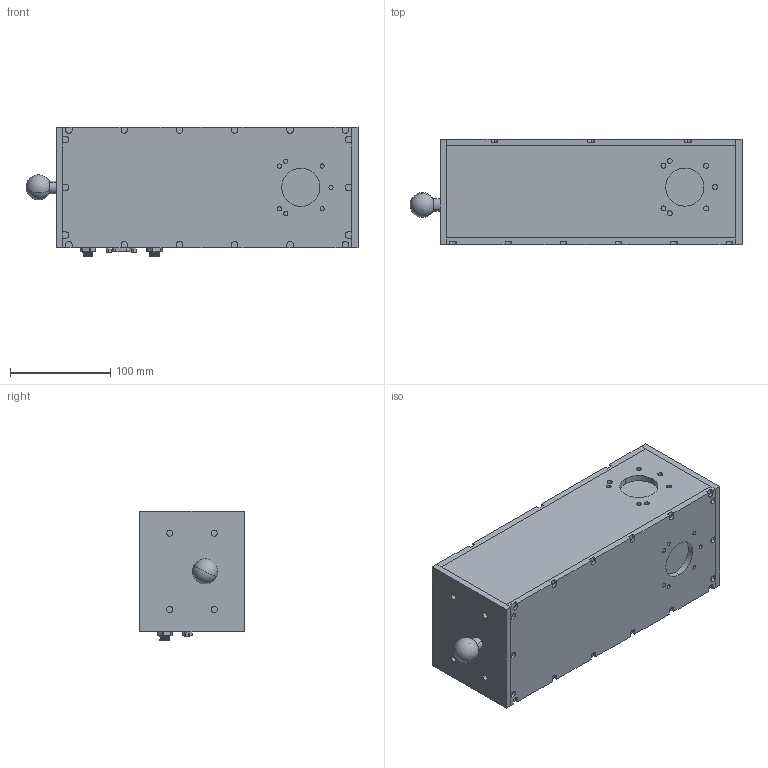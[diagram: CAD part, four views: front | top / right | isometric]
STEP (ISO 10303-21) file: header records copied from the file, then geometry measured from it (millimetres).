
FILE_DESCRIPTION (( 'STEP AP214' ), '1' );
FILE_NAME ('BSU-38-51050-MWI.STEP', '2017-02-06T21:31:17', ( '' ), ( '' ), 'SwSTEP 2.0', 'SolidWorks 2017', '' );
FILE_SCHEMA (( 'AUTOMOTIVE_DESIGN' ));
Length unit declared in the file: inch
Products named in the file (1): BSU-38-51050-MWI
Bounding box: 331.82 x 104.78 x 129.85 mm (x, y, z)
Volume: 3793419.7 mm3; surface area: 172784 mm2
Topology: 1 solids, 1 shells, 486 faces, 1162 edges, 738 vertices
Faces by surface type: plane 215, cylinder 187, torus 56, cone 18, bspline 8, sphere 2
Entity records: 14661 total; most frequent: CARTESIAN_POINT 3069, DIRECTION 2551, ORIENTED_EDGE 2314, EDGE_CURVE 1157, AXIS2_PLACEMENT_3D 973, VERTEX_POINT 735, LINE 605, VECTOR 605
